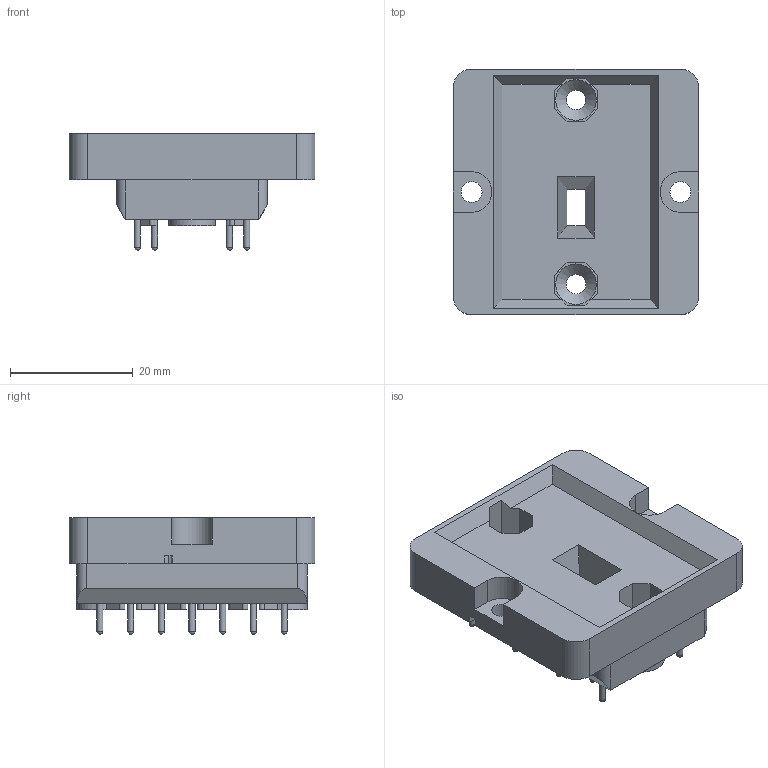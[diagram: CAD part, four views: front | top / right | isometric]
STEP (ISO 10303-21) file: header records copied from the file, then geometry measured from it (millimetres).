
FILE_DESCRIPTION((''),'2;1');
FILE_NAME('I:\TI\Bibliotheek\Inventor\Relais voeten\V32\V32.stp','2011-06-17T11:30:47',('oey'),(''),'Autodesk Inventor 2012','Autodesk Inventor 2012','');
FILE_SCHEMA(('AUTOMOTIVE_DESIGN { 1 0 10303 214 1 1 1 1 }'));
Length unit declared in the file: millimetre
Products named in the file (1): V32
Bounding box: 40 x 40 x 19 mm (x, y, z)
Volume: 12928.6 mm3; surface area: 7366.9 mm2
Topology: 1 solids, 1 shells, 224 faces, 598 edges, 396 vertices
Faces by surface type: plane 128, cylinder 80, sphere 14, cone 2
Full cylindrical faces by diameter (mm): 1 x14, 1.9 x4, 3.2 x2, 3.4 x2, 7.5 x2
Entity records: 6762 total; most frequent: DIRECTION 1140, CARTESIAN_POINT 1111, ORIENTED_EDGE 1048, EDGE_CURVE 524, AXIS2_PLACEMENT_3D 391, VERTEX_POINT 362, VECTOR 358, LINE 358
